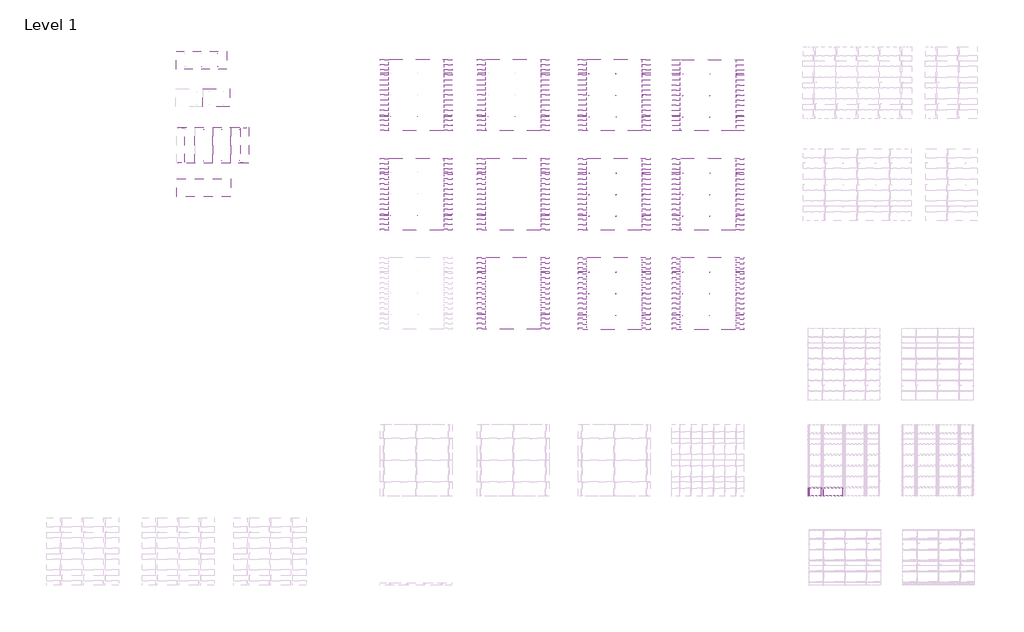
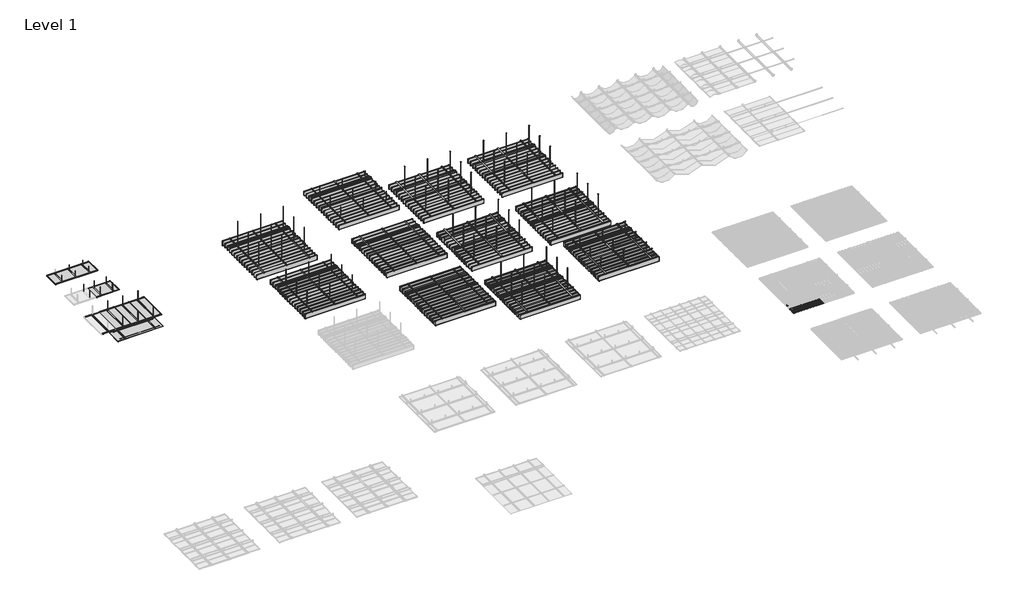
# One storey, part 26 of 32: 117 proxies.
"""IFC4 building model written with IfcOpenShell, lengths in millimetres."""

from ifc_helpers import new_model, si_unit, origin, place, context, project, spatial, transform, mapped, element, save
from components import generic_models_8d9bcc0e, generic_models_5ffb89bc, generic_models_6a377f2d, generic_models_94a974c4, generic_models_d8b8c2a7, generic_models_204b18f4, generic_models_0f372576, generic_models_ee162b96, generic_models_e66d4f3b, generic_models_2a4c3610, generic_models_b1cdc258, generic_models_24e03244, generic_models_9f9b644e, generic_models_c1ba41e6, generic_models_b32e8602, generic_models_1035ca5c, generic_models_0fbfe230, generic_models_343f9e44, generic_models_58572ec1, generic_models_96af2689, generic_models_10a35686, generic_models_3c33ed08, generic_models_34059fb2, generic_models_34a5c581, generic_models_bf59cfc3, generic_models_68ff6faa, generic_models_77b5902f, generic_models_c2da57ca, generic_models_28c25aac, generic_models_e9b2db04, generic_models_56abbabc, generic_models_4996d795, generic_models_d5dff9a6, generic_models_780d98af, generic_models_b5b58d67, generic_models_c9cba1a2, generic_models_133a6ed9, generic_models_e6ab58be, generic_models_4634cb2f, generic_models_40e4f3ba, generic_models_28f6a95c, generic_models_e4749aa9, generic_models_490a04a7, generic_models_2188c257, generic_models_02a78667, generic_models_d3921d50, generic_models_7fa63ab6, generic_models_629f62d5, generic_models_5acbdc38

model = new_model("IFC4")

# Units and contexts
model_context = context("Model", 3, world=origin())
ifc_project = project(units=[si_unit("LENGTHUNIT", "METRE", prefix="MILLI")], contexts=[model_context])

# Site, building, storey
site = spatial("IfcSite", under=ifc_project)
building = spatial("IfcBuilding", under=site)
storey = spatial("IfcBuildingStorey", under=building, Name="Level 1", Elevation=0.0)

# Proxies
placement = place(None, origin())
generic_models_shape = generic_models_8d9bcc0e(model_context)
element("IfcBuildingElementProxy", 1, Name="durlum_STARLAM_panel : durlum_STARLAM_4_width_cut", ObjectType="durlum_STARLAM_panel : durlum_STARLAM_4_width_cut", at=placement, inside=storey, context=model_context, shape_type="MappedRepresentation", body=[
    mapped(generic_models_shape, transform((35317.1423778, 1988.9976834, 3700.0), x_axis=(1.0, 0.0, 0.0), y_axis=(0.0, 1.0, 0.0), z_axis=(0.0, 0.0, 1.0))),
])
generic_models_2_shape = generic_models_5ffb89bc(model_context)
element("IfcBuildingElementProxy", 2, Name="durlum_STARLAM_panel : durlum_STARLAM_4_corner_cut", ObjectType="durlum_STARLAM_panel : durlum_STARLAM_4_corner_cut", at=placement, inside=storey, context=model_context, shape_type="MappedRepresentation", body=[
    mapped(generic_models_2_shape, transform((34317.0173778, 1988.9976834, 3700.0), x_axis=(1.0, 0.0, 0.0), y_axis=(0.0, 1.0, 0.0), z_axis=(0.0, 0.0, 1.0))),
])
generic_models_3_shape = generic_models_6a377f2d(model_context)
element("IfcBuildingElementProxy", 3, Name="durlum_dur_SOLO_ACTIVE : durlum_dur_SOLO_ACTIVE", ObjectType="durlum_dur_SOLO_ACTIVE : durlum_dur_SOLO_ACTIVE", at=placement, inside=storey, context=model_context, shape_type="MappedRepresentation", body=[
    mapped(generic_models_3_shape, transform((392.6368491, 18856.1507746, 3940.0), x_axis=(1.0, 0.0, 0.0), y_axis=(0.0, 1.0, 0.0), z_axis=(0.0, 0.0, 1.0))),
])
generic_models_4_shape = generic_models_94a974c4(model_context)
element("IfcBuildingElementProxy", 4, Name="durlum_dur_SOLO_TYPE4 : durlum_dur_SOLO_TYPE4", ObjectType="durlum_dur_SOLO_TYPE4 : durlum_dur_SOLO_TYPE4", at=placement, inside=storey, context=model_context, shape_type="MappedRepresentation", body=[
    mapped(generic_models_4_shape, transform((877.3586075, 21231.524633, 1568.4515177), x_axis=(1.0, 0.0, 0.0), y_axis=(0.0, 1.0, 0.0), z_axis=(0.0, 0.0, 1.0))),
])
generic_models_5_shape = generic_models_d8b8c2a7(model_context)
element("IfcBuildingElementProxy", 5, Name="durlum_dur_SOLO_TYPE4_panel : durlum_dur_SOLO_TYPE4_panel", ObjectType="durlum_dur_SOLO_TYPE4_panel : durlum_dur_SOLO_TYPE4_panel", at=placement, inside=storey, context=model_context, shape_type="MappedRepresentation", body=[
    mapped(generic_models_5_shape, transform((1377.3586075, 21231.524633, 3268.4515177), x_axis=(0.0, 1.0, 0.0), y_axis=(-1.0, 0.0, 0.0), z_axis=(0.0, 0.0, 1.0))),
])
element("IfcBuildingElementProxy", 6, Name="durlum_dur_SOLO_TYPE4_panel : durlum_dur_SOLO_TYPE4_panel", ObjectType="durlum_dur_SOLO_TYPE4_panel : durlum_dur_SOLO_TYPE4_panel", at=placement, inside=storey, context=model_context, shape_type="MappedRepresentation", body=[
    mapped(generic_models_5_shape, transform((377.3586075, 21231.524633, 3268.4515177), x_axis=(0.0, 1.0, 0.0), y_axis=(-1.0, 0.0, 0.0), z_axis=(0.0, 0.0, 1.0))),
])
element("IfcBuildingElementProxy", 7, Name="durlum_dur_SOLO_TYPE4_panel : durlum_dur_SOLO_TYPE4_panel", ObjectType="durlum_dur_SOLO_TYPE4_panel : durlum_dur_SOLO_TYPE4_panel", at=placement, inside=storey, context=model_context, shape_type="MappedRepresentation", body=[
    mapped(generic_models_5_shape, transform((2377.3586075, 21231.524633, 3268.4515177), x_axis=(0.0, 1.0, 0.0), y_axis=(-1.0, 0.0, 0.0), z_axis=(0.0, 0.0, 1.0))),
])
generic_models_6_shape = generic_models_204b18f4(model_context)
element("IfcBuildingElementProxy", 8, Name="durlum_threaded_rod_M6 : durlum_threaded_rod_M6", ObjectType="durlum_threaded_rod_M6 : durlum_threaded_rod_M6", at=placement, inside=storey, context=model_context, shape_type="MappedRepresentation", body=[
    mapped(generic_models_6_shape, transform((377.3586075, 22098.524633, 3317.4515177), x_axis=(0.0, 1.0, 0.0), y_axis=(-1.0, 0.0, 0.0), z_axis=(0.0, 0.0, 1.0))),
])
element("IfcBuildingElementProxy", 9, Name="durlum_threaded_rod_M6 : durlum_threaded_rod_M6", ObjectType="durlum_threaded_rod_M6 : durlum_threaded_rod_M6", at=placement, inside=storey, context=model_context, shape_type="MappedRepresentation", body=[
    mapped(generic_models_6_shape, transform((377.3586075, 20364.524633, 3317.4515177), x_axis=(0.0, 1.0, 0.0), y_axis=(-1.0, 0.0, 0.0), z_axis=(0.0, 0.0, 1.0))),
])
element("IfcBuildingElementProxy", 10, Name="durlum_threaded_rod_M6 : durlum_threaded_rod_M6", ObjectType="durlum_threaded_rod_M6 : durlum_threaded_rod_M6", at=placement, inside=storey, context=model_context, shape_type="MappedRepresentation", body=[
    mapped(generic_models_6_shape, transform((1377.3586075, 22098.524633, 3317.4515177), x_axis=(0.0, 1.0, 0.0), y_axis=(-1.0, 0.0, 0.0), z_axis=(0.0, 0.0, 1.0))),
])
element("IfcBuildingElementProxy", 11, Name="durlum_threaded_rod_M6 : durlum_threaded_rod_M6", ObjectType="durlum_threaded_rod_M6 : durlum_threaded_rod_M6", at=placement, inside=storey, context=model_context, shape_type="MappedRepresentation", body=[
    mapped(generic_models_6_shape, transform((1377.3586075, 20364.524633, 3317.4515177), x_axis=(0.0, 1.0, 0.0), y_axis=(-1.0, 0.0, 0.0), z_axis=(0.0, 0.0, 1.0))),
])
element("IfcBuildingElementProxy", 12, Name="durlum_threaded_rod_M6 : durlum_threaded_rod_M6", ObjectType="durlum_threaded_rod_M6 : durlum_threaded_rod_M6", at=placement, inside=storey, context=model_context, shape_type="MappedRepresentation", body=[
    mapped(generic_models_6_shape, transform((2377.3586075, 22098.524633, 3317.4515177), x_axis=(0.0, 1.0, 0.0), y_axis=(-1.0, 0.0, 0.0), z_axis=(0.0, 0.0, 1.0))),
])
element("IfcBuildingElementProxy", 13, Name="durlum_threaded_rod_M6 : durlum_threaded_rod_M6", ObjectType="durlum_threaded_rod_M6 : durlum_threaded_rod_M6", at=placement, inside=storey, context=model_context, shape_type="MappedRepresentation", body=[
    mapped(generic_models_6_shape, transform((2377.3586075, 20364.524633, 3317.4515177), x_axis=(0.0, 1.0, 0.0), y_axis=(-1.0, 0.0, 0.0), z_axis=(0.0, 0.0, 1.0))),
])
generic_models_7_shape = generic_models_0f372576(model_context)
element("IfcBuildingElementProxy", 14, Name="durlum_U1300 : durlum_U1300", ObjectType="durlum_U1300 : durlum_U1300", at=placement, inside=storey, context=model_context, shape_type="MappedRepresentation", body=[
    mapped(generic_models_7_shape, transform((21772.1507827, 24009.7838367, 1790.8655086), x_axis=(1.0, 0.0, 0.0), y_axis=(0.0, 1.0, 0.0), z_axis=(0.0, 0.0, 1.0))),
])
element("IfcBuildingElementProxy", 15, Name="durlum_U1300 : durlum_U1300", ObjectType="durlum_U1300 : durlum_U1300", at=placement, inside=storey, context=model_context, shape_type="MappedRepresentation", body=[
    mapped(generic_models_7_shape, transform((24772.1507827, 24009.7838367, 1790.8655086), x_axis=(1.0, 0.0, 0.0), y_axis=(0.0, 1.0, 0.0), z_axis=(0.0, 0.0, 1.0))),
])
element("IfcBuildingElementProxy", 16, Name="durlum_U1300 : durlum_U1300", ObjectType="durlum_U1300 : durlum_U1300", at=placement, inside=storey, context=model_context, shape_type="MappedRepresentation", body=[
    mapped(generic_models_7_shape, transform((23272.1507827, 24009.7838367, 1790.8655086), x_axis=(1.0, 0.0, 0.0), y_axis=(0.0, 1.0, 0.0), z_axis=(0.0, 0.0, 1.0))),
])
element("IfcBuildingElementProxy", 17, Name="durlum_U1300 : durlum_U1300", ObjectType="durlum_U1300 : durlum_U1300", at=placement, inside=storey, context=model_context, shape_type="MappedRepresentation", body=[
    mapped(generic_models_7_shape, transform((21772.1507827, 22809.7838367, 1790.8655086), x_axis=(1.0, 0.0, 0.0), y_axis=(0.0, 1.0, 0.0), z_axis=(0.0, 0.0, 1.0))),
])
element("IfcBuildingElementProxy", 18, Name="durlum_U1300 : durlum_U1300", ObjectType="durlum_U1300 : durlum_U1300", at=placement, inside=storey, context=model_context, shape_type="MappedRepresentation", body=[
    mapped(generic_models_7_shape, transform((24772.1507827, 22809.7838367, 1790.8655086), x_axis=(1.0, 0.0, 0.0), y_axis=(0.0, 1.0, 0.0), z_axis=(0.0, 0.0, 1.0))),
])
element("IfcBuildingElementProxy", 19, Name="durlum_U1300 : durlum_U1300", ObjectType="durlum_U1300 : durlum_U1300", at=placement, inside=storey, context=model_context, shape_type="MappedRepresentation", body=[
    mapped(generic_models_7_shape, transform((23272.1507827, 22809.7838367, 1790.8655086), x_axis=(1.0, 0.0, 0.0), y_axis=(0.0, 1.0, 0.0), z_axis=(0.0, 0.0, 1.0))),
])
element("IfcBuildingElementProxy", 20, Name="durlum_U1300 : durlum_U1300", ObjectType="durlum_U1300 : durlum_U1300", at=placement, inside=storey, context=model_context, shape_type="MappedRepresentation", body=[
    mapped(generic_models_7_shape, transform((21772.1507827, 25209.7838367, 1790.8655086), x_axis=(1.0, 0.0, 0.0), y_axis=(0.0, 1.0, 0.0), z_axis=(0.0, 0.0, 1.0))),
])
element("IfcBuildingElementProxy", 21, Name="durlum_U1300 : durlum_U1300", ObjectType="durlum_U1300 : durlum_U1300", at=placement, inside=storey, context=model_context, shape_type="MappedRepresentation", body=[
    mapped(generic_models_7_shape, transform((24772.1507827, 25209.7838367, 1790.8655086), x_axis=(1.0, 0.0, 0.0), y_axis=(0.0, 1.0, 0.0), z_axis=(0.0, 0.0, 1.0))),
])
element("IfcBuildingElementProxy", 22, Name="durlum_U1300 : durlum_U1300", ObjectType="durlum_U1300 : durlum_U1300", at=placement, inside=storey, context=model_context, shape_type="MappedRepresentation", body=[
    mapped(generic_models_7_shape, transform((23272.1507827, 25209.7838367, 1790.8655086), x_axis=(1.0, 0.0, 0.0), y_axis=(0.0, 1.0, 0.0), z_axis=(0.0, 0.0, 1.0))),
])
element("IfcBuildingElementProxy", 23, Name="durlum_U1300 : durlum_U1300", ObjectType="durlum_U1300 : durlum_U1300", at=placement, inside=storey, context=model_context, shape_type="MappedRepresentation", body=[
    mapped(generic_models_7_shape, transform((26972.1507827, 23998.2838367, 1790.8655086), x_axis=(1.0, 0.0, 0.0), y_axis=(0.0, 1.0, 0.0), z_axis=(0.0, 0.0, 1.0))),
])
element("IfcBuildingElementProxy", 24, Name="durlum_U1300 : durlum_U1300", ObjectType="durlum_U1300 : durlum_U1300", at=placement, inside=storey, context=model_context, shape_type="MappedRepresentation", body=[
    mapped(generic_models_7_shape, transform((29972.1507827, 23998.2838367, 1790.8655086), x_axis=(1.0, 0.0, 0.0), y_axis=(0.0, 1.0, 0.0), z_axis=(0.0, 0.0, 1.0))),
])
element("IfcBuildingElementProxy", 25, Name="durlum_U1300 : durlum_U1300", ObjectType="durlum_U1300 : durlum_U1300", at=placement, inside=storey, context=model_context, shape_type="MappedRepresentation", body=[
    mapped(generic_models_7_shape, transform((28472.1507827, 23998.2838367, 1790.8655086), x_axis=(1.0, 0.0, 0.0), y_axis=(0.0, 1.0, 0.0), z_axis=(0.0, 0.0, 1.0))),
])
element("IfcBuildingElementProxy", 26, Name="durlum_U1300 : durlum_U1300", ObjectType="durlum_U1300 : durlum_U1300", at=placement, inside=storey, context=model_context, shape_type="MappedRepresentation", body=[
    mapped(generic_models_7_shape, transform((26972.1507827, 22798.2838367, 1790.8655086), x_axis=(1.0, 0.0, 0.0), y_axis=(0.0, 1.0, 0.0), z_axis=(0.0, 0.0, 1.0))),
])
element("IfcBuildingElementProxy", 27, Name="durlum_U1300 : durlum_U1300", ObjectType="durlum_U1300 : durlum_U1300", at=placement, inside=storey, context=model_context, shape_type="MappedRepresentation", body=[
    mapped(generic_models_7_shape, transform((29972.1507827, 22798.2838367, 1790.8655086), x_axis=(1.0, 0.0, 0.0), y_axis=(0.0, 1.0, 0.0), z_axis=(0.0, 0.0, 1.0))),
])
element("IfcBuildingElementProxy", 28, Name="durlum_U1300 : durlum_U1300", ObjectType="durlum_U1300 : durlum_U1300", at=placement, inside=storey, context=model_context, shape_type="MappedRepresentation", body=[
    mapped(generic_models_7_shape, transform((28472.1507827, 22798.2838367, 1790.8655086), x_axis=(1.0, 0.0, 0.0), y_axis=(0.0, 1.0, 0.0), z_axis=(0.0, 0.0, 1.0))),
])
element("IfcBuildingElementProxy", 29, Name="durlum_U1300 : durlum_U1300", ObjectType="durlum_U1300 : durlum_U1300", at=placement, inside=storey, context=model_context, shape_type="MappedRepresentation", body=[
    mapped(generic_models_7_shape, transform((26972.1507827, 25198.2838367, 1790.8655086), x_axis=(1.0, 0.0, 0.0), y_axis=(0.0, 1.0, 0.0), z_axis=(0.0, 0.0, 1.0))),
])
element("IfcBuildingElementProxy", 30, Name="durlum_U1300 : durlum_U1300", ObjectType="durlum_U1300 : durlum_U1300", at=placement, inside=storey, context=model_context, shape_type="MappedRepresentation", body=[
    mapped(generic_models_7_shape, transform((29972.1507827, 25198.2838367, 1790.8655086), x_axis=(1.0, 0.0, 0.0), y_axis=(0.0, 1.0, 0.0), z_axis=(0.0, 0.0, 1.0))),
])
element("IfcBuildingElementProxy", 31, Name="durlum_U1300 : durlum_U1300", ObjectType="durlum_U1300 : durlum_U1300", at=placement, inside=storey, context=model_context, shape_type="MappedRepresentation", body=[
    mapped(generic_models_7_shape, transform((28472.1507827, 25198.2838367, 1790.8655086), x_axis=(1.0, 0.0, 0.0), y_axis=(0.0, 1.0, 0.0), z_axis=(0.0, 0.0, 1.0))),
])
element("IfcBuildingElementProxy", 32, Name="durlum_U1300 : durlum_U1300", ObjectType="durlum_U1300 : durlum_U1300", at=placement, inside=storey, context=model_context, shape_type="MappedRepresentation", body=[
    mapped(generic_models_7_shape, transform((21772.1507827, 18498.2838367, 1790.8655086), x_axis=(1.0, 0.0, 0.0), y_axis=(0.0, 1.0, 0.0), z_axis=(0.0, 0.0, 1.0))),
])
element("IfcBuildingElementProxy", 33, Name="durlum_U1300 : durlum_U1300", ObjectType="durlum_U1300 : durlum_U1300", at=placement, inside=storey, context=model_context, shape_type="MappedRepresentation", body=[
    mapped(generic_models_7_shape, transform((24772.1507827, 18498.2838367, 1790.8655086), x_axis=(1.0, 0.0, 0.0), y_axis=(0.0, 1.0, 0.0), z_axis=(0.0, 0.0, 1.0))),
])
element("IfcBuildingElementProxy", 34, Name="durlum_U1300 : durlum_U1300", ObjectType="durlum_U1300 : durlum_U1300", at=placement, inside=storey, context=model_context, shape_type="MappedRepresentation", body=[
    mapped(generic_models_7_shape, transform((23272.1507827, 18498.2838367, 1790.8655086), x_axis=(1.0, 0.0, 0.0), y_axis=(0.0, 1.0, 0.0), z_axis=(0.0, 0.0, 1.0))),
])
element("IfcBuildingElementProxy", 35, Name="durlum_U1300 : durlum_U1300", ObjectType="durlum_U1300 : durlum_U1300", at=placement, inside=storey, context=model_context, shape_type="MappedRepresentation", body=[
    mapped(generic_models_7_shape, transform((21772.1507827, 17298.2838367, 1790.8655086), x_axis=(1.0, 0.0, 0.0), y_axis=(0.0, 1.0, 0.0), z_axis=(0.0, 0.0, 1.0))),
])
element("IfcBuildingElementProxy", 36, Name="durlum_U1300 : durlum_U1300", ObjectType="durlum_U1300 : durlum_U1300", at=placement, inside=storey, context=model_context, shape_type="MappedRepresentation", body=[
    mapped(generic_models_7_shape, transform((24772.1507827, 17298.2838367, 1790.8655086), x_axis=(1.0, 0.0, 0.0), y_axis=(0.0, 1.0, 0.0), z_axis=(0.0, 0.0, 1.0))),
])
element("IfcBuildingElementProxy", 37, Name="durlum_U1300 : durlum_U1300", ObjectType="durlum_U1300 : durlum_U1300", at=placement, inside=storey, context=model_context, shape_type="MappedRepresentation", body=[
    mapped(generic_models_7_shape, transform((23272.1507827, 17298.2838367, 1790.8655086), x_axis=(1.0, 0.0, 0.0), y_axis=(0.0, 1.0, 0.0), z_axis=(0.0, 0.0, 1.0))),
])
element("IfcBuildingElementProxy", 38, Name="durlum_U1300 : durlum_U1300", ObjectType="durlum_U1300 : durlum_U1300", at=placement, inside=storey, context=model_context, shape_type="MappedRepresentation", body=[
    mapped(generic_models_7_shape, transform((21772.1507827, 19698.2838367, 1790.8655086), x_axis=(1.0, 0.0, 0.0), y_axis=(0.0, 1.0, 0.0), z_axis=(0.0, 0.0, 1.0))),
])
element("IfcBuildingElementProxy", 39, Name="durlum_U1300 : durlum_U1300", ObjectType="durlum_U1300 : durlum_U1300", at=placement, inside=storey, context=model_context, shape_type="MappedRepresentation", body=[
    mapped(generic_models_7_shape, transform((24772.1507827, 19698.2838367, 1790.8655086), x_axis=(1.0, 0.0, 0.0), y_axis=(0.0, 1.0, 0.0), z_axis=(0.0, 0.0, 1.0))),
])
element("IfcBuildingElementProxy", 40, Name="durlum_U1300 : durlum_U1300", ObjectType="durlum_U1300 : durlum_U1300", at=placement, inside=storey, context=model_context, shape_type="MappedRepresentation", body=[
    mapped(generic_models_7_shape, transform((23272.1507827, 19698.2838367, 1790.8655086), x_axis=(1.0, 0.0, 0.0), y_axis=(0.0, 1.0, 0.0), z_axis=(0.0, 0.0, 1.0))),
])
element("IfcBuildingElementProxy", 41, Name="durlum_U1300 : durlum_U1300", ObjectType="durlum_U1300 : durlum_U1300", at=placement, inside=storey, context=model_context, shape_type="MappedRepresentation", body=[
    mapped(generic_models_7_shape, transform((26972.1507827, 18498.2838367, 1790.8655086), x_axis=(1.0, 0.0, 0.0), y_axis=(0.0, 1.0, 0.0), z_axis=(0.0, 0.0, 1.0))),
])
element("IfcBuildingElementProxy", 42, Name="durlum_U1300 : durlum_U1300", ObjectType="durlum_U1300 : durlum_U1300", at=placement, inside=storey, context=model_context, shape_type="MappedRepresentation", body=[
    mapped(generic_models_7_shape, transform((29972.1507827, 18498.2838367, 1790.8655086), x_axis=(1.0, 0.0, 0.0), y_axis=(0.0, 1.0, 0.0), z_axis=(0.0, 0.0, 1.0))),
])
element("IfcBuildingElementProxy", 43, Name="durlum_U1300 : durlum_U1300", ObjectType="durlum_U1300 : durlum_U1300", at=placement, inside=storey, context=model_context, shape_type="MappedRepresentation", body=[
    mapped(generic_models_7_shape, transform((28472.1507827, 18498.2838367, 1790.8655086), x_axis=(1.0, 0.0, 0.0), y_axis=(0.0, 1.0, 0.0), z_axis=(0.0, 0.0, 1.0))),
])
element("IfcBuildingElementProxy", 44, Name="durlum_U1300 : durlum_U1300", ObjectType="durlum_U1300 : durlum_U1300", at=placement, inside=storey, context=model_context, shape_type="MappedRepresentation", body=[
    mapped(generic_models_7_shape, transform((26972.1507827, 17298.2838367, 1790.8655086), x_axis=(1.0, 0.0, 0.0), y_axis=(0.0, 1.0, 0.0), z_axis=(0.0, 0.0, 1.0))),
])
element("IfcBuildingElementProxy", 45, Name="durlum_U1300 : durlum_U1300", ObjectType="durlum_U1300 : durlum_U1300", at=placement, inside=storey, context=model_context, shape_type="MappedRepresentation", body=[
    mapped(generic_models_7_shape, transform((29972.1507827, 17298.2838367, 1790.8655086), x_axis=(1.0, 0.0, 0.0), y_axis=(0.0, 1.0, 0.0), z_axis=(0.0, 0.0, 1.0))),
])
element("IfcBuildingElementProxy", 46, Name="durlum_U1300 : durlum_U1300", ObjectType="durlum_U1300 : durlum_U1300", at=placement, inside=storey, context=model_context, shape_type="MappedRepresentation", body=[
    mapped(generic_models_7_shape, transform((28472.1507827, 17298.2838367, 1790.8655086), x_axis=(1.0, 0.0, 0.0), y_axis=(0.0, 1.0, 0.0), z_axis=(0.0, 0.0, 1.0))),
])
element("IfcBuildingElementProxy", 47, Name="durlum_U1300 : durlum_U1300", ObjectType="durlum_U1300 : durlum_U1300", at=placement, inside=storey, context=model_context, shape_type="MappedRepresentation", body=[
    mapped(generic_models_7_shape, transform((26972.1507827, 19698.2838367, 1790.8655086), x_axis=(1.0, 0.0, 0.0), y_axis=(0.0, 1.0, 0.0), z_axis=(0.0, 0.0, 1.0))),
])
element("IfcBuildingElementProxy", 48, Name="durlum_U1300 : durlum_U1300", ObjectType="durlum_U1300 : durlum_U1300", at=placement, inside=storey, context=model_context, shape_type="MappedRepresentation", body=[
    mapped(generic_models_7_shape, transform((29972.1507827, 19698.2838367, 1790.8655086), x_axis=(1.0, 0.0, 0.0), y_axis=(0.0, 1.0, 0.0), z_axis=(0.0, 0.0, 1.0))),
])
element("IfcBuildingElementProxy", 49, Name="durlum_U1300 : durlum_U1300", ObjectType="durlum_U1300 : durlum_U1300", at=placement, inside=storey, context=model_context, shape_type="MappedRepresentation", body=[
    mapped(generic_models_7_shape, transform((28472.1507827, 19698.2838367, 1790.8655086), x_axis=(1.0, 0.0, 0.0), y_axis=(0.0, 1.0, 0.0), z_axis=(0.0, 0.0, 1.0))),
])
element("IfcBuildingElementProxy", 50, Name="durlum_U1300 : durlum_U1300", ObjectType="durlum_U1300 : durlum_U1300", at=placement, inside=storey, context=model_context, shape_type="MappedRepresentation", body=[
    mapped(generic_models_7_shape, transform((21772.1507827, 12998.2838367, 1790.8655086), x_axis=(1.0, 0.0, 0.0), y_axis=(0.0, 1.0, 0.0), z_axis=(0.0, 0.0, 1.0))),
])
element("IfcBuildingElementProxy", 51, Name="durlum_U1300 : durlum_U1300", ObjectType="durlum_U1300 : durlum_U1300", at=placement, inside=storey, context=model_context, shape_type="MappedRepresentation", body=[
    mapped(generic_models_7_shape, transform((24772.1507827, 12998.2838367, 1790.8655086), x_axis=(1.0, 0.0, 0.0), y_axis=(0.0, 1.0, 0.0), z_axis=(0.0, 0.0, 1.0))),
])
element("IfcBuildingElementProxy", 52, Name="durlum_U1300 : durlum_U1300", ObjectType="durlum_U1300 : durlum_U1300", at=placement, inside=storey, context=model_context, shape_type="MappedRepresentation", body=[
    mapped(generic_models_7_shape, transform((23272.1507827, 12998.2838367, 1790.8655086), x_axis=(1.0, 0.0, 0.0), y_axis=(0.0, 1.0, 0.0), z_axis=(0.0, 0.0, 1.0))),
])
element("IfcBuildingElementProxy", 53, Name="durlum_U1300 : durlum_U1300", ObjectType="durlum_U1300 : durlum_U1300", at=placement, inside=storey, context=model_context, shape_type="MappedRepresentation", body=[
    mapped(generic_models_7_shape, transform((24772.1507827, 11798.2838367, 1790.8655086), x_axis=(1.0, 0.0, 0.0), y_axis=(0.0, 1.0, 0.0), z_axis=(0.0, 0.0, 1.0))),
])
element("IfcBuildingElementProxy", 54, Name="durlum_U1300 : durlum_U1300", ObjectType="durlum_U1300 : durlum_U1300", at=placement, inside=storey, context=model_context, shape_type="MappedRepresentation", body=[
    mapped(generic_models_7_shape, transform((23272.1507827, 11798.2838367, 1790.8655086), x_axis=(1.0, 0.0, 0.0), y_axis=(0.0, 1.0, 0.0), z_axis=(0.0, 0.0, 1.0))),
])
element("IfcBuildingElementProxy", 55, Name="durlum_U1300 : durlum_U1300", ObjectType="durlum_U1300 : durlum_U1300", at=placement, inside=storey, context=model_context, shape_type="MappedRepresentation", body=[
    mapped(generic_models_7_shape, transform((21772.1507827, 14198.2838367, 1790.8655086), x_axis=(1.0, 0.0, 0.0), y_axis=(0.0, 1.0, 0.0), z_axis=(0.0, 0.0, 1.0))),
])
element("IfcBuildingElementProxy", 56, Name="durlum_U1300 : durlum_U1300", ObjectType="durlum_U1300 : durlum_U1300", at=placement, inside=storey, context=model_context, shape_type="MappedRepresentation", body=[
    mapped(generic_models_7_shape, transform((24772.1507827, 14198.2838367, 1790.8655086), x_axis=(1.0, 0.0, 0.0), y_axis=(0.0, 1.0, 0.0), z_axis=(0.0, 0.0, 1.0))),
])
element("IfcBuildingElementProxy", 57, Name="durlum_U1300 : durlum_U1300", ObjectType="durlum_U1300 : durlum_U1300", at=placement, inside=storey, context=model_context, shape_type="MappedRepresentation", body=[
    mapped(generic_models_7_shape, transform((23272.1507827, 14198.2838367, 1790.8655086), x_axis=(1.0, 0.0, 0.0), y_axis=(0.0, 1.0, 0.0), z_axis=(0.0, 0.0, 1.0))),
])
generic_models_8_shape = generic_models_ee162b96(model_context)
element("IfcBuildingElementProxy", 58, Name="durlum_threaded_rod_M6 : durlum_threaded_rod_M6", ObjectType="durlum_threaded_rod_M6 : durlum_threaded_rod_M6", at=placement, inside=storey, context=model_context, shape_type="MappedRepresentation", body=[
    mapped(generic_models_8_shape, transform((1151.7912008, 25594.3505073, 3672.1013669), x_axis=(0.0, -1.0, 0.0), y_axis=(1.0, 0.0, 0.0), z_axis=(0.0, 0.0, 1.0))),
])
element("IfcBuildingElementProxy", 59, Name="durlum_threaded_rod_M6 : durlum_threaded_rod_M6", ObjectType="durlum_threaded_rod_M6 : durlum_threaded_rod_M6", at=placement, inside=storey, context=model_context, shape_type="MappedRepresentation", body=[
    mapped(generic_models_8_shape, transform((1151.7912008, 26294.3505073, 3672.1013669), x_axis=(0.0, -1.0, 0.0), y_axis=(1.0, 0.0, 0.0), z_axis=(0.0, 0.0, 1.0))),
])
element("IfcBuildingElementProxy", 60, Name="durlum_threaded_rod_M6 : durlum_threaded_rod_M6", ObjectType="durlum_threaded_rod_M6 : durlum_threaded_rod_M6", at=placement, inside=storey, context=model_context, shape_type="MappedRepresentation", body=[
    mapped(generic_models_8_shape, transform((251.7912008, 25594.3505073, 3672.1013669), x_axis=(0.0, -1.0, 0.0), y_axis=(1.0, 0.0, 0.0), z_axis=(0.0, 0.0, 1.0))),
])
element("IfcBuildingElementProxy", 61, Name="durlum_threaded_rod_M6 : durlum_threaded_rod_M6", ObjectType="durlum_threaded_rod_M6 : durlum_threaded_rod_M6", at=placement, inside=storey, context=model_context, shape_type="MappedRepresentation", body=[
    mapped(generic_models_8_shape, transform((251.7912008, 26294.3505073, 3672.1013669), x_axis=(0.0, -1.0, 0.0), y_axis=(1.0, 0.0, 0.0), z_axis=(0.0, 0.0, 1.0))),
])
generic_models_9_shape = generic_models_e66d4f3b(model_context)
element("IfcBuildingElementProxy", 62, Name="durlum_threaded_rod_M6 : durlum_threaded_rod_M6", ObjectType="durlum_threaded_rod_M6 : durlum_threaded_rod_M6", at=placement, inside=storey, context=model_context, shape_type="MappedRepresentation", body=[
    mapped(generic_models_9_shape, transform((1500.0170721, 23495.3772869, 3528.2982312), x_axis=(0.0, -1.0, 0.0), y_axis=(1.0, 0.0, 0.0), z_axis=(0.0, 0.0, 1.0))),
])
element("IfcBuildingElementProxy", 63, Name="durlum_threaded_rod_M6 : durlum_threaded_rod_M6", ObjectType="durlum_threaded_rod_M6 : durlum_threaded_rod_M6", at=placement, inside=storey, context=model_context, shape_type="MappedRepresentation", body=[
    mapped(generic_models_9_shape, transform((1500.0170721, 24195.3772869, 3528.2982312), x_axis=(0.0, -1.0, 0.0), y_axis=(1.0, 0.0, 0.0), z_axis=(0.0, 0.0, 1.0))),
])
element("IfcBuildingElementProxy", 64, Name="durlum_threaded_rod_M6 : durlum_threaded_rod_M6", ObjectType="durlum_threaded_rod_M6 : durlum_threaded_rod_M6", at=placement, inside=storey, context=model_context, shape_type="MappedRepresentation", body=[
    mapped(generic_models_9_shape, transform((690.0170721, 23495.3772869, 3528.2982312), x_axis=(0.0, -1.0, 0.0), y_axis=(1.0, 0.0, 0.0), z_axis=(0.0, 0.0, 1.0))),
])
element("IfcBuildingElementProxy", 65, Name="durlum_threaded_rod_M6 : durlum_threaded_rod_M6", ObjectType="durlum_threaded_rod_M6 : durlum_threaded_rod_M6", at=placement, inside=storey, context=model_context, shape_type="MappedRepresentation", body=[
    mapped(generic_models_9_shape, transform((690.0170721, 24195.3772869, 3528.2982312), x_axis=(0.0, -1.0, 0.0), y_axis=(1.0, 0.0, 0.0), z_axis=(0.0, 0.0, 1.0))),
])
element("IfcBuildingElementProxy", 66, Name="durlum_threaded_rod_M6 : durlum_threaded_rod_M6", ObjectType="durlum_threaded_rod_M6 : durlum_threaded_rod_M6", at=placement, inside=storey, context=model_context, shape_type="MappedRepresentation", body=[
    mapped(generic_models_9_shape, transform((0.0170721, 23495.3772869, 3528.2982312), x_axis=(0.0, -1.0, 0.0), y_axis=(1.0, 0.0, 0.0), z_axis=(0.0, 0.0, 1.0))),
])
element("IfcBuildingElementProxy", 67, Name="durlum_threaded_rod_M6 : durlum_threaded_rod_M6", ObjectType="durlum_threaded_rod_M6 : durlum_threaded_rod_M6", at=placement, inside=storey, context=model_context, shape_type="MappedRepresentation", body=[
    mapped(generic_models_9_shape, transform((0.0170721, 24195.3772869, 3528.2982312), x_axis=(0.0, -1.0, 0.0), y_axis=(1.0, 0.0, 0.0), z_axis=(0.0, 0.0, 1.0))),
])
generic_models_10_shape = generic_models_2a4c3610(model_context)
element("IfcBuildingElementProxy", 68, Name="durlum_U1300 : durlum_U1300", ObjectType="durlum_U1300 : durlum_U1300", at=placement, inside=storey, context=model_context, shape_type="MappedRepresentation", body=[
    mapped(generic_models_10_shape, transform((26972.1507827, 12998.2838367, 2640.4724588), x_axis=(1.0, 0.0, 0.0), y_axis=(0.0, 1.0, 0.0), z_axis=(0.0, 0.0, 1.0))),
])
element("IfcBuildingElementProxy", 69, Name="durlum_U1300 : durlum_U1300", ObjectType="durlum_U1300 : durlum_U1300", at=placement, inside=storey, context=model_context, shape_type="MappedRepresentation", body=[
    mapped(generic_models_10_shape, transform((29972.1507827, 12998.2838367, 2640.4724588), x_axis=(1.0, 0.0, 0.0), y_axis=(0.0, 1.0, 0.0), z_axis=(0.0, 0.0, 1.0))),
])
element("IfcBuildingElementProxy", 70, Name="durlum_U1300 : durlum_U1300", ObjectType="durlum_U1300 : durlum_U1300", at=placement, inside=storey, context=model_context, shape_type="MappedRepresentation", body=[
    mapped(generic_models_10_shape, transform((28472.1507827, 12998.2838367, 2640.4724588), x_axis=(1.0, 0.0, 0.0), y_axis=(0.0, 1.0, 0.0), z_axis=(0.0, 0.0, 1.0))),
])
element("IfcBuildingElementProxy", 71, Name="durlum_U1300 : durlum_U1300", ObjectType="durlum_U1300 : durlum_U1300", at=placement, inside=storey, context=model_context, shape_type="MappedRepresentation", body=[
    mapped(generic_models_10_shape, transform((26972.1507827, 11798.2838367, 2640.4724588), x_axis=(1.0, 0.0, 0.0), y_axis=(0.0, 1.0, 0.0), z_axis=(0.0, 0.0, 1.0))),
])
element("IfcBuildingElementProxy", 72, Name="durlum_U1300 : durlum_U1300", ObjectType="durlum_U1300 : durlum_U1300", at=placement, inside=storey, context=model_context, shape_type="MappedRepresentation", body=[
    mapped(generic_models_10_shape, transform((29972.1507827, 11798.2838367, 2640.4724588), x_axis=(1.0, 0.0, 0.0), y_axis=(0.0, 1.0, 0.0), z_axis=(0.0, 0.0, 1.0))),
])
element("IfcBuildingElementProxy", 73, Name="durlum_U1300 : durlum_U1300", ObjectType="durlum_U1300 : durlum_U1300", at=placement, inside=storey, context=model_context, shape_type="MappedRepresentation", body=[
    mapped(generic_models_10_shape, transform((28472.1507827, 11798.2838367, 2640.4724588), x_axis=(1.0, 0.0, 0.0), y_axis=(0.0, 1.0, 0.0), z_axis=(0.0, 0.0, 1.0))),
])
element("IfcBuildingElementProxy", 74, Name="durlum_U1300 : durlum_U1300", ObjectType="durlum_U1300 : durlum_U1300", at=placement, inside=storey, context=model_context, shape_type="MappedRepresentation", body=[
    mapped(generic_models_10_shape, transform((26972.1507827, 14198.2838367, 2640.4724588), x_axis=(1.0, 0.0, 0.0), y_axis=(0.0, 1.0, 0.0), z_axis=(0.0, 0.0, 1.0))),
])
element("IfcBuildingElementProxy", 75, Name="durlum_U1300 : durlum_U1300", ObjectType="durlum_U1300 : durlum_U1300", at=placement, inside=storey, context=model_context, shape_type="MappedRepresentation", body=[
    mapped(generic_models_10_shape, transform((29972.1507827, 14198.2838367, 2640.4724588), x_axis=(1.0, 0.0, 0.0), y_axis=(0.0, 1.0, 0.0), z_axis=(0.0, 0.0, 1.0))),
])
element("IfcBuildingElementProxy", 76, Name="durlum_U1300 : durlum_U1300", ObjectType="durlum_U1300 : durlum_U1300", at=placement, inside=storey, context=model_context, shape_type="MappedRepresentation", body=[
    mapped(generic_models_10_shape, transform((28472.1507827, 14198.2838367, 2640.4724588), x_axis=(1.0, 0.0, 0.0), y_axis=(0.0, 1.0, 0.0), z_axis=(0.0, 0.0, 1.0))),
])
generic_models_11_shape = generic_models_b1cdc258(model_context)
element("IfcBuildingElementProxy", 77, Name="durlum_threaded_rod_M6 : durlum_threaded_rod_M6", ObjectType="durlum_threaded_rod_M6 : durlum_threaded_rod_M6", at=placement, inside=storey, context=model_context, shape_type="MappedRepresentation", body=[
    mapped(generic_models_11_shape, transform((16174.6837261, 22823.7838367, 4002.0), x_axis=(-1.0, 0.0, 0.0), y_axis=(0.0, -1.0, 0.0), z_axis=(0.0, 0.0, 1.0))),
])
element("IfcBuildingElementProxy", 78, Name="durlum_threaded_rod_M6 : durlum_threaded_rod_M6", ObjectType="durlum_threaded_rod_M6 : durlum_threaded_rod_M6", at=placement, inside=storey, context=model_context, shape_type="MappedRepresentation", body=[
    mapped(generic_models_11_shape, transform((19174.6837261, 22823.7838367, 4002.0), x_axis=(-1.0, 0.0, 0.0), y_axis=(0.0, -1.0, 0.0), z_axis=(0.0, 0.0, 1.0))),
])
element("IfcBuildingElementProxy", 79, Name="durlum_threaded_rod_M6 : durlum_threaded_rod_M6", ObjectType="durlum_threaded_rod_M6 : durlum_threaded_rod_M6", at=placement, inside=storey, context=model_context, shape_type="MappedRepresentation", body=[
    mapped(generic_models_11_shape, transform((17674.6837261, 22823.7838367, 4002.0), x_axis=(-1.0, 0.0, 0.0), y_axis=(0.0, -1.0, 0.0), z_axis=(0.0, 0.0, 1.0))),
])
element("IfcBuildingElementProxy", 80, Name="durlum_threaded_rod_M6 : durlum_threaded_rod_M6", ObjectType="durlum_threaded_rod_M6 : durlum_threaded_rod_M6", at=placement, inside=storey, context=model_context, shape_type="MappedRepresentation", body=[
    mapped(generic_models_11_shape, transform((16174.6837261, 25223.7838367, 4002.0), x_axis=(-1.0, 0.0, 0.0), y_axis=(0.0, -1.0, 0.0), z_axis=(0.0, 0.0, 1.0))),
])
element("IfcBuildingElementProxy", 81, Name="durlum_threaded_rod_M6 : durlum_threaded_rod_M6", ObjectType="durlum_threaded_rod_M6 : durlum_threaded_rod_M6", at=placement, inside=storey, context=model_context, shape_type="MappedRepresentation", body=[
    mapped(generic_models_11_shape, transform((19174.6837261, 25223.7838367, 4002.0), x_axis=(-1.0, 0.0, 0.0), y_axis=(0.0, -1.0, 0.0), z_axis=(0.0, 0.0, 1.0))),
])
element("IfcBuildingElementProxy", 82, Name="durlum_threaded_rod_M6 : durlum_threaded_rod_M6", ObjectType="durlum_threaded_rod_M6 : durlum_threaded_rod_M6", at=placement, inside=storey, context=model_context, shape_type="MappedRepresentation", body=[
    mapped(generic_models_11_shape, transform((17674.6837261, 25223.7838367, 4002.0), x_axis=(-1.0, 0.0, 0.0), y_axis=(0.0, -1.0, 0.0), z_axis=(0.0, 0.0, 1.0))),
])
element("IfcBuildingElementProxy", 83, Name="durlum_threaded_rod_M6 : durlum_threaded_rod_M6", ObjectType="durlum_threaded_rod_M6 : durlum_threaded_rod_M6", at=placement, inside=storey, context=model_context, shape_type="MappedRepresentation", body=[
    mapped(generic_models_11_shape, transform((16174.6837261, 24023.7838367, 4002.0), x_axis=(-1.0, 0.0, 0.0), y_axis=(0.0, -1.0, 0.0), z_axis=(0.0, 0.0, 1.0))),
])
element("IfcBuildingElementProxy", 84, Name="durlum_threaded_rod_M6 : durlum_threaded_rod_M6", ObjectType="durlum_threaded_rod_M6 : durlum_threaded_rod_M6", at=placement, inside=storey, context=model_context, shape_type="MappedRepresentation", body=[
    mapped(generic_models_11_shape, transform((19174.6837261, 24023.7838367, 4002.0), x_axis=(-1.0, 0.0, 0.0), y_axis=(0.0, -1.0, 0.0), z_axis=(0.0, 0.0, 1.0))),
])
element("IfcBuildingElementProxy", 85, Name="durlum_threaded_rod_M6 : durlum_threaded_rod_M6", ObjectType="durlum_threaded_rod_M6 : durlum_threaded_rod_M6", at=placement, inside=storey, context=model_context, shape_type="MappedRepresentation", body=[
    mapped(generic_models_11_shape, transform((17674.6837261, 24023.7838367, 4002.0), x_axis=(-1.0, 0.0, 0.0), y_axis=(0.0, -1.0, 0.0), z_axis=(0.0, 0.0, 1.0))),
])
generic_models_12_shape = generic_models_24e03244(model_context)
element("IfcBuildingElementProxy", 86, Name="durlum_threaded_rod_M6 : durlum_threaded_rod_M6", ObjectType="durlum_threaded_rod_M6 : durlum_threaded_rod_M6", at=placement, inside=storey, context=model_context, shape_type="MappedRepresentation", body=[
    mapped(generic_models_12_shape, transform((10774.6837261, 24023.7838367, 2415.0), x_axis=(-1.0, 0.0, 0.0), y_axis=(0.0, -1.0, 0.0), z_axis=(0.0, 0.0, 1.0))),
])
element("IfcBuildingElementProxy", 87, Name="durlum_threaded_rod_M6 : durlum_threaded_rod_M6", ObjectType="durlum_threaded_rod_M6 : durlum_threaded_rod_M6", at=placement, inside=storey, context=model_context, shape_type="MappedRepresentation", body=[
    mapped(generic_models_12_shape, transform((13774.6837261, 24023.7838367, 2415.0), x_axis=(-1.0, 0.0, 0.0), y_axis=(0.0, -1.0, 0.0), z_axis=(0.0, 0.0, 1.0))),
])
element("IfcBuildingElementProxy", 88, Name="durlum_threaded_rod_M6 : durlum_threaded_rod_M6", ObjectType="durlum_threaded_rod_M6 : durlum_threaded_rod_M6", at=placement, inside=storey, context=model_context, shape_type="MappedRepresentation", body=[
    mapped(generic_models_12_shape, transform((12274.6837261, 24023.7838367, 2415.0), x_axis=(-1.0, 0.0, 0.0), y_axis=(0.0, -1.0, 0.0), z_axis=(0.0, 0.0, 1.0))),
])
element("IfcBuildingElementProxy", 89, Name="durlum_threaded_rod_M6 : durlum_threaded_rod_M6", ObjectType="durlum_threaded_rod_M6 : durlum_threaded_rod_M6", at=placement, inside=storey, context=model_context, shape_type="MappedRepresentation", body=[
    mapped(generic_models_12_shape, transform((10774.6837261, 22823.7838367, 2415.0), x_axis=(-1.0, 0.0, 0.0), y_axis=(0.0, -1.0, 0.0), z_axis=(0.0, 0.0, 1.0))),
])
element("IfcBuildingElementProxy", 90, Name="durlum_threaded_rod_M6 : durlum_threaded_rod_M6", ObjectType="durlum_threaded_rod_M6 : durlum_threaded_rod_M6", at=placement, inside=storey, context=model_context, shape_type="MappedRepresentation", body=[
    mapped(generic_models_12_shape, transform((13774.6837261, 22823.7838367, 2415.0), x_axis=(-1.0, 0.0, 0.0), y_axis=(0.0, -1.0, 0.0), z_axis=(0.0, 0.0, 1.0))),
])
element("IfcBuildingElementProxy", 91, Name="durlum_threaded_rod_M6 : durlum_threaded_rod_M6", ObjectType="durlum_threaded_rod_M6 : durlum_threaded_rod_M6", at=placement, inside=storey, context=model_context, shape_type="MappedRepresentation", body=[
    mapped(generic_models_12_shape, transform((12274.6837261, 22823.7838367, 2415.0), x_axis=(-1.0, 0.0, 0.0), y_axis=(0.0, -1.0, 0.0), z_axis=(0.0, 0.0, 1.0))),
])
element("IfcBuildingElementProxy", 92, Name="durlum_threaded_rod_M6 : durlum_threaded_rod_M6", ObjectType="durlum_threaded_rod_M6 : durlum_threaded_rod_M6", at=placement, inside=storey, context=model_context, shape_type="MappedRepresentation", body=[
    mapped(generic_models_12_shape, transform((10774.6837261, 25223.7838367, 2415.0), x_axis=(-1.0, 0.0, 0.0), y_axis=(0.0, -1.0, 0.0), z_axis=(0.0, 0.0, 1.0))),
])
element("IfcBuildingElementProxy", 93, Name="durlum_threaded_rod_M6 : durlum_threaded_rod_M6", ObjectType="durlum_threaded_rod_M6 : durlum_threaded_rod_M6", at=placement, inside=storey, context=model_context, shape_type="MappedRepresentation", body=[
    mapped(generic_models_12_shape, transform((13774.6837261, 25223.7838367, 2415.0), x_axis=(-1.0, 0.0, 0.0), y_axis=(0.0, -1.0, 0.0), z_axis=(0.0, 0.0, 1.0))),
])
element("IfcBuildingElementProxy", 94, Name="durlum_threaded_rod_M6 : durlum_threaded_rod_M6", ObjectType="durlum_threaded_rod_M6 : durlum_threaded_rod_M6", at=placement, inside=storey, context=model_context, shape_type="MappedRepresentation", body=[
    mapped(generic_models_12_shape, transform((12274.6837261, 25223.7838367, 2415.0), x_axis=(-1.0, 0.0, 0.0), y_axis=(0.0, -1.0, 0.0), z_axis=(0.0, 0.0, 1.0))),
])
generic_models_13_shape = generic_models_9f9b644e(model_context)
element("IfcBuildingElementProxy", 95, Name="durlum_threaded_rod_M6 : durlum_threaded_rod_M6", ObjectType="durlum_threaded_rod_M6 : durlum_threaded_rod_M6", at=placement, inside=storey, context=model_context, shape_type="MappedRepresentation", body=[
    mapped(generic_models_13_shape, transform((10774.6837261, 17323.7838367, 3034.320165), x_axis=(-1.0, 0.0, 0.0), y_axis=(0.0, -1.0, 0.0), z_axis=(0.0, 0.0, 1.0))),
])
element("IfcBuildingElementProxy", 96, Name="durlum_threaded_rod_M6 : durlum_threaded_rod_M6", ObjectType="durlum_threaded_rod_M6 : durlum_threaded_rod_M6", at=placement, inside=storey, context=model_context, shape_type="MappedRepresentation", body=[
    mapped(generic_models_13_shape, transform((13774.6837261, 17323.7838367, 3034.320165), x_axis=(-1.0, 0.0, 0.0), y_axis=(0.0, -1.0, 0.0), z_axis=(0.0, 0.0, 1.0))),
])
element("IfcBuildingElementProxy", 97, Name="durlum_threaded_rod_M6 : durlum_threaded_rod_M6", ObjectType="durlum_threaded_rod_M6 : durlum_threaded_rod_M6", at=placement, inside=storey, context=model_context, shape_type="MappedRepresentation", body=[
    mapped(generic_models_13_shape, transform((12274.6837261, 17323.7838367, 3034.320165), x_axis=(-1.0, 0.0, 0.0), y_axis=(0.0, -1.0, 0.0), z_axis=(0.0, 0.0, 1.0))),
])
element("IfcBuildingElementProxy", 98, Name="durlum_threaded_rod_M6 : durlum_threaded_rod_M6", ObjectType="durlum_threaded_rod_M6 : durlum_threaded_rod_M6", at=placement, inside=storey, context=model_context, shape_type="MappedRepresentation", body=[
    mapped(generic_models_13_shape, transform((10774.6837261, 19723.7838367, 3034.320165), x_axis=(-1.0, 0.0, 0.0), y_axis=(0.0, -1.0, 0.0), z_axis=(0.0, 0.0, 1.0))),
])
element("IfcBuildingElementProxy", 99, Name="durlum_threaded_rod_M6 : durlum_threaded_rod_M6", ObjectType="durlum_threaded_rod_M6 : durlum_threaded_rod_M6", at=placement, inside=storey, context=model_context, shape_type="MappedRepresentation", body=[
    mapped(generic_models_13_shape, transform((13774.6837261, 19723.7838367, 3034.320165), x_axis=(-1.0, 0.0, 0.0), y_axis=(0.0, -1.0, 0.0), z_axis=(0.0, 0.0, 1.0))),
])
element("IfcBuildingElementProxy", 100, Name="durlum_threaded_rod_M6 : durlum_threaded_rod_M6", ObjectType="durlum_threaded_rod_M6 : durlum_threaded_rod_M6", at=placement, inside=storey, context=model_context, shape_type="MappedRepresentation", body=[
    mapped(generic_models_13_shape, transform((12274.6837261, 19723.7838367, 3034.320165), x_axis=(-1.0, 0.0, 0.0), y_axis=(0.0, -1.0, 0.0), z_axis=(0.0, 0.0, 1.0))),
])
element("IfcBuildingElementProxy", 101, Name="durlum_threaded_rod_M6 : durlum_threaded_rod_M6", ObjectType="durlum_threaded_rod_M6 : durlum_threaded_rod_M6", at=placement, inside=storey, context=model_context, shape_type="MappedRepresentation", body=[
    mapped(generic_models_13_shape, transform((10774.6837261, 18523.7838367, 3034.320165), x_axis=(-1.0, 0.0, 0.0), y_axis=(0.0, -1.0, 0.0), z_axis=(0.0, 0.0, 1.0))),
])
element("IfcBuildingElementProxy", 102, Name="durlum_threaded_rod_M6 : durlum_threaded_rod_M6", ObjectType="durlum_threaded_rod_M6 : durlum_threaded_rod_M6", at=placement, inside=storey, context=model_context, shape_type="MappedRepresentation", body=[
    mapped(generic_models_13_shape, transform((13774.6837261, 18523.7838367, 3034.320165), x_axis=(-1.0, 0.0, 0.0), y_axis=(0.0, -1.0, 0.0), z_axis=(0.0, 0.0, 1.0))),
])
element("IfcBuildingElementProxy", 103, Name="durlum_threaded_rod_M6 : durlum_threaded_rod_M6", ObjectType="durlum_threaded_rod_M6 : durlum_threaded_rod_M6", at=placement, inside=storey, context=model_context, shape_type="MappedRepresentation", body=[
    mapped(generic_models_13_shape, transform((12274.6837261, 18523.7838367, 3034.320165), x_axis=(-1.0, 0.0, 0.0), y_axis=(0.0, -1.0, 0.0), z_axis=(0.0, 0.0, 1.0))),
])
generic_models_14_shape = generic_models_c1ba41e6(model_context)
generic_models_15_shape = generic_models_b32e8602(model_context)
generic_models_16_shape = generic_models_1035ca5c(model_context)
element("IfcBuildingElementProxy", 104, Name="durlum_POLYLAM : durlum_POLYLAM 40", ObjectType="durlum_POLYLAM : durlum_POLYLAM 40", at=placement, inside=storey, context=model_context, shape_type="MappedRepresentation", body=[
    mapped(generic_models_14_shape, transform((17574.6837261, 24009.7838367, 1950.0), x_axis=(1.0, 0.0, 0.0), y_axis=(0.0, 1.0, 0.0), z_axis=(0.0, 0.0, 1.0))),
    mapped(generic_models_15_shape, transform((17574.6837261, 24009.7838367, 1950.0), x_axis=(1.0, 0.0, 0.0), y_axis=(0.0, 1.0, 0.0), z_axis=(0.0, 0.0, 1.0))),
    mapped(generic_models_16_shape, transform((17574.6837261, 24009.7838367, 1950.0), x_axis=(1.0, 0.0, 0.0), y_axis=(0.0, 1.0, 0.0), z_axis=(0.0, 0.0, 1.0))),
])
generic_models_17_shape = generic_models_0fbfe230(model_context)
generic_models_18_shape = generic_models_343f9e44(model_context)
generic_models_19_shape = generic_models_58572ec1(model_context)
element("IfcBuildingElementProxy", 105, Name="durlum_POLYLAM_KS : durlum_POLYLAM-KS/-S 40", ObjectType="durlum_POLYLAM_KS : durlum_POLYLAM-KS/-S 40", at=placement, inside=storey, context=model_context, shape_type="MappedRepresentation", body=[
    mapped(generic_models_17_shape, transform((28372.1507827, 23998.2838367, 462.4530404), x_axis=(1.0, 0.0, 0.0), y_axis=(0.0, 1.0, 0.0), z_axis=(0.0, 0.0, 1.0))),
    mapped(generic_models_18_shape, transform((28372.1507827, 23998.2838367, 462.4530404), x_axis=(1.0, 0.0, 0.0), y_axis=(0.0, 1.0, 0.0), z_axis=(0.0, 0.0, 1.0))),
    mapped(generic_models_19_shape, transform((28372.1507827, 23998.2838367, 462.4530404), x_axis=(1.0, 0.0, 0.0), y_axis=(0.0, 1.0, 0.0), z_axis=(0.0, 0.0, 1.0))),
])
generic_models_20_shape = generic_models_96af2689(model_context)
generic_models_21_shape = generic_models_10a35686(model_context)
generic_models_22_shape = generic_models_3c33ed08(model_context)
element("IfcBuildingElementProxy", 106, Name="durlum_POLYLAM_KS : durlum_POLYLAM-KS/-S 63", ObjectType="durlum_POLYLAM_KS : durlum_POLYLAM-KS/-S 63", at=placement, inside=storey, context=model_context, shape_type="MappedRepresentation", body=[
    mapped(generic_models_20_shape, transform((28372.1507827, 18498.2838367, 462.4530404), x_axis=(1.0, 0.0, 0.0), y_axis=(0.0, 1.0, 0.0), z_axis=(0.0, 0.0, 1.0))),
    mapped(generic_models_21_shape, transform((28372.1507827, 18498.2838367, 462.4530404), x_axis=(1.0, 0.0, 0.0), y_axis=(0.0, 1.0, 0.0), z_axis=(0.0, 0.0, 1.0))),
    mapped(generic_models_22_shape, transform((28372.1507827, 18498.2838367, 462.4530404), x_axis=(1.0, 0.0, 0.0), y_axis=(0.0, 1.0, 0.0), z_axis=(0.0, 0.0, 1.0))),
])
generic_models_23_shape = generic_models_34059fb2(model_context)
generic_models_24_shape = generic_models_34a5c581(model_context)
generic_models_25_shape = generic_models_bf59cfc3(model_context)
element("IfcBuildingElementProxy", 107, Name="durlum_POLYLAM_KS : durlum_POLYLAM-KS/-S 100", ObjectType="durlum_POLYLAM_KS : durlum_POLYLAM-KS/-S 100", at=placement, inside=storey, context=model_context, shape_type="MappedRepresentation", body=[
    mapped(generic_models_23_shape, transform((28372.1507827, 12998.2838367, 548.013562), x_axis=(1.0, 0.0, 0.0), y_axis=(0.0, 1.0, 0.0), z_axis=(0.0, 0.0, 1.0))),
    mapped(generic_models_24_shape, transform((28372.1507827, 12998.2838367, 548.013562), x_axis=(1.0, 0.0, 0.0), y_axis=(0.0, 1.0, 0.0), z_axis=(0.0, 0.0, 1.0))),
    mapped(generic_models_25_shape, transform((28372.1507827, 12998.2838367, 548.013562), x_axis=(1.0, 0.0, 0.0), y_axis=(0.0, 1.0, 0.0), z_axis=(0.0, 0.0, 1.0))),
])
generic_models_26_shape = generic_models_68ff6faa(model_context)
generic_models_27_shape = generic_models_77b5902f(model_context)
generic_models_28_shape = generic_models_c2da57ca(model_context)
element("IfcBuildingElementProxy", 108, Name="durlum_POLYLAM : durlum_POLYLAM 40 RV-L6", ObjectType="durlum_POLYLAM : durlum_POLYLAM 40 RV-L6", at=placement, inside=storey, context=model_context, shape_type="MappedRepresentation", body=[
    mapped(generic_models_26_shape, transform((12174.6837261, 24009.7838367, 363.0), x_axis=(1.0, 0.0, 0.0), y_axis=(0.0, 1.0, 0.0), z_axis=(0.0, 0.0, 1.0))),
    mapped(generic_models_27_shape, transform((12174.6837261, 24009.7838367, 363.0), x_axis=(1.0, 0.0, 0.0), y_axis=(0.0, 1.0, 0.0), z_axis=(0.0, 0.0, 1.0))),
    mapped(generic_models_28_shape, transform((12174.6837261, 24009.7838367, 363.0), x_axis=(1.0, 0.0, 0.0), y_axis=(0.0, 1.0, 0.0), z_axis=(0.0, 0.0, 1.0))),
])
generic_models_29_shape = generic_models_28c25aac(model_context)
generic_models_30_shape = generic_models_e9b2db04(model_context)
generic_models_31_shape = generic_models_56abbabc(model_context)
element("IfcBuildingElementProxy", 109, Name="durlum_POLYLAM : durlum_POLYLAM 63 RV-L6", ObjectType="durlum_POLYLAM : durlum_POLYLAM 63 RV-L6", at=placement, inside=storey, context=model_context, shape_type="MappedRepresentation", body=[
    mapped(generic_models_29_shape, transform((12174.6837261, 18509.7838367, 982.320165), x_axis=(1.0, 0.0, 0.0), y_axis=(0.0, 1.0, 0.0), z_axis=(0.0, 0.0, 1.0))),
    mapped(generic_models_30_shape, transform((12174.6837261, 18509.7838367, 982.320165), x_axis=(1.0, 0.0, 0.0), y_axis=(0.0, 1.0, 0.0), z_axis=(0.0, 0.0, 1.0))),
    mapped(generic_models_31_shape, transform((12174.6837261, 18509.7838367, 982.320165), x_axis=(1.0, 0.0, 0.0), y_axis=(0.0, 1.0, 0.0), z_axis=(0.0, 0.0, 1.0))),
])
generic_models_32_shape = generic_models_4996d795(model_context)
generic_models_33_shape = generic_models_d5dff9a6(model_context)
generic_models_34_shape = generic_models_780d98af(model_context)
element("IfcBuildingElementProxy", 110, Name="durlum_POLYLAM_KS : durlum_POLYLAM-KS/-S 40 RV-L6", ObjectType="durlum_POLYLAM_KS : durlum_POLYLAM-KS/-S 40 RV-L6", at=placement, inside=storey, context=model_context, shape_type="MappedRepresentation", body=[
    mapped(generic_models_32_shape, transform((23172.1507827, 24009.7838367, 462.4530404), x_axis=(1.0, 0.0, 0.0), y_axis=(0.0, 1.0, 0.0), z_axis=(0.0, 0.0, 1.0))),
    mapped(generic_models_33_shape, transform((23172.1507827, 24009.7838367, 462.4530404), x_axis=(1.0, 0.0, 0.0), y_axis=(0.0, 1.0, 0.0), z_axis=(0.0, 0.0, 1.0))),
    mapped(generic_models_34_shape, transform((23172.1507827, 24009.7838367, 462.4530404), x_axis=(1.0, 0.0, 0.0), y_axis=(0.0, 1.0, 0.0), z_axis=(0.0, 0.0, 1.0))),
])
generic_models_35_shape = generic_models_b5b58d67(model_context)
generic_models_36_shape = generic_models_c9cba1a2(model_context)
generic_models_37_shape = generic_models_133a6ed9(model_context)
element("IfcBuildingElementProxy", 111, Name="durlum_POLYLAM_KS : durlum_POLYLAM-KS/-S 63 RV-L6", ObjectType="durlum_POLYLAM_KS : durlum_POLYLAM-KS/-S 63 RV-L6", at=placement, inside=storey, context=model_context, shape_type="MappedRepresentation", body=[
    mapped(generic_models_35_shape, transform((23172.1507827, 18498.2838367, 462.4530404), x_axis=(1.0, 0.0, 0.0), y_axis=(0.0, 1.0, 0.0), z_axis=(0.0, 0.0, 1.0))),
    mapped(generic_models_36_shape, transform((23172.1507827, 18498.2838367, 462.4530404), x_axis=(1.0, 0.0, 0.0), y_axis=(0.0, 1.0, 0.0), z_axis=(0.0, 0.0, 1.0))),
    mapped(generic_models_37_shape, transform((23172.1507827, 18498.2838367, 462.4530404), x_axis=(1.0, 0.0, 0.0), y_axis=(0.0, 1.0, 0.0), z_axis=(0.0, 0.0, 1.0))),
])
generic_models_38_shape = generic_models_e6ab58be(model_context)
generic_models_39_shape = generic_models_4634cb2f(model_context)
generic_models_40_shape = generic_models_40e4f3ba(model_context)
element("IfcBuildingElementProxy", 112, Name="durlum_POLYLAM_KS : durlum_POLYLAM-KS/-S 100 RV-L6", ObjectType="durlum_POLYLAM_KS : durlum_POLYLAM-KS/-S 100 RV-L6", at=placement, inside=storey, context=model_context, shape_type="MappedRepresentation", body=[
    mapped(generic_models_38_shape, transform((23172.1507827, 12998.2838367, 462.4530404), x_axis=(1.0, 0.0, 0.0), y_axis=(0.0, 1.0, 0.0), z_axis=(0.0, 0.0, 1.0))),
    mapped(generic_models_39_shape, transform((23172.1507827, 12998.2838367, 462.4530404), x_axis=(1.0, 0.0, 0.0), y_axis=(0.0, 1.0, 0.0), z_axis=(0.0, 0.0, 1.0))),
    mapped(generic_models_40_shape, transform((23172.1507827, 12998.2838367, 462.4530404), x_axis=(1.0, 0.0, 0.0), y_axis=(0.0, 1.0, 0.0), z_axis=(0.0, 0.0, 1.0))),
])
generic_models_41_shape = generic_models_28f6a95c(model_context)
element("IfcBuildingElementProxy", 113, Name="durlum_U1042 : durlum_U1042", ObjectType="durlum_U1042 : durlum_U1042", at=placement, inside=storey, context=model_context, shape_type="MappedRepresentation", body=[
    mapped(generic_models_41_shape, transform((33917.1423778, 2523.9976834, 3766.0), x_axis=(0.0, -1.0, 0.0), y_axis=(1.0, 0.0, 0.0), z_axis=(0.0, 0.0, 1.0))),
])
generic_models_42_shape = generic_models_e4749aa9(model_context)
generic_models_43_shape = generic_models_490a04a7(model_context)
generic_models_44_shape = generic_models_2188c257(model_context)
element("IfcBuildingElementProxy", 114, Name="durlum_POLYLAM : durlum_POLYLAM 100", ObjectType="durlum_POLYLAM : durlum_POLYLAM 100", at=placement, inside=storey, context=model_context, shape_type="MappedRepresentation", body=[
    mapped(generic_models_42_shape, transform((17574.6837261, 13009.7838367, 1950.0), x_axis=(1.0, 0.0, 0.0), y_axis=(0.0, 1.0, 0.0), z_axis=(0.0, 0.0, 1.0))),
    mapped(generic_models_43_shape, transform((17574.6837261, 13009.7838367, 1950.0), x_axis=(1.0, 0.0, 0.0), y_axis=(0.0, 1.0, 0.0), z_axis=(0.0, 0.0, 1.0))),
    mapped(generic_models_44_shape, transform((17574.6837261, 13009.7838367, 1950.0), x_axis=(1.0, 0.0, 0.0), y_axis=(0.0, 1.0, 0.0), z_axis=(0.0, 0.0, 1.0))),
])
generic_models_45_shape = generic_models_02a78667(model_context)
generic_models_46_shape = generic_models_d3921d50(model_context)
generic_models_47_shape = generic_models_7fa63ab6(model_context)
element("IfcBuildingElementProxy", 115, Name="durlum_POLYLAM : durlum_POLYLAM 63", ObjectType="durlum_POLYLAM : durlum_POLYLAM 63", at=placement, inside=storey, context=model_context, shape_type="MappedRepresentation", body=[
    mapped(generic_models_45_shape, transform((17574.6837261, 18509.7838367, 1950.0), x_axis=(1.0, 0.0, 0.0), y_axis=(0.0, 1.0, 0.0), z_axis=(0.0, 0.0, 1.0))),
    mapped(generic_models_46_shape, transform((17574.6837261, 18509.7838367, 1950.0), x_axis=(1.0, 0.0, 0.0), y_axis=(0.0, 1.0, 0.0), z_axis=(0.0, 0.0, 1.0))),
    mapped(generic_models_47_shape, transform((17574.6837261, 18509.7838367, 1950.0), x_axis=(1.0, 0.0, 0.0), y_axis=(0.0, 1.0, 0.0), z_axis=(0.0, 0.0, 1.0))),
])
generic_models_48_shape = generic_models_629f62d5(model_context)
element("IfcBuildingElementProxy", 116, Name="durlum_dur_SOLO_TYPE2_panel : durlum_dur_SOLO_TYPE2_panel", ObjectType="durlum_dur_SOLO_TYPE2_panel : durlum_dur_SOLO_TYPE2_panel", at=placement, inside=storey, context=model_context, shape_type="MappedRepresentation", body=[
    mapped(generic_models_48_shape, transform((1095.0170721, 23845.3772869, 3478.2982312), x_axis=(1.0, 0.0, 0.0), y_axis=(0.0, 1.0, 0.0), z_axis=(0.0, 0.0, 1.0))),
])
generic_models_49_shape = generic_models_5acbdc38(model_context)
element("IfcBuildingElementProxy", 117, Name="durlum_dur_SOLO_TYPE1 : durlum_dur_SOLO_TYPE1", ObjectType="durlum_dur_SOLO_TYPE1 : durlum_dur_SOLO_TYPE1", at=placement, inside=storey, context=model_context, shape_type="MappedRepresentation", body=[
    mapped(generic_models_49_shape, transform((251.7912008, 25944.3505073, 3622.1013669), x_axis=(1.0, 0.0, 0.0), y_axis=(0.0, 1.0, 0.0), z_axis=(0.0, 0.0, 1.0))),
])

save(model, "model.ifc")
